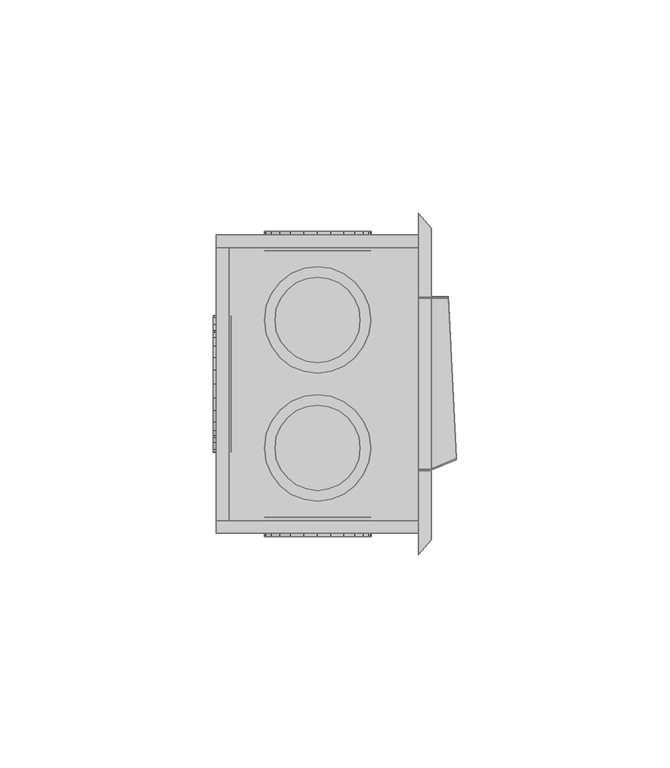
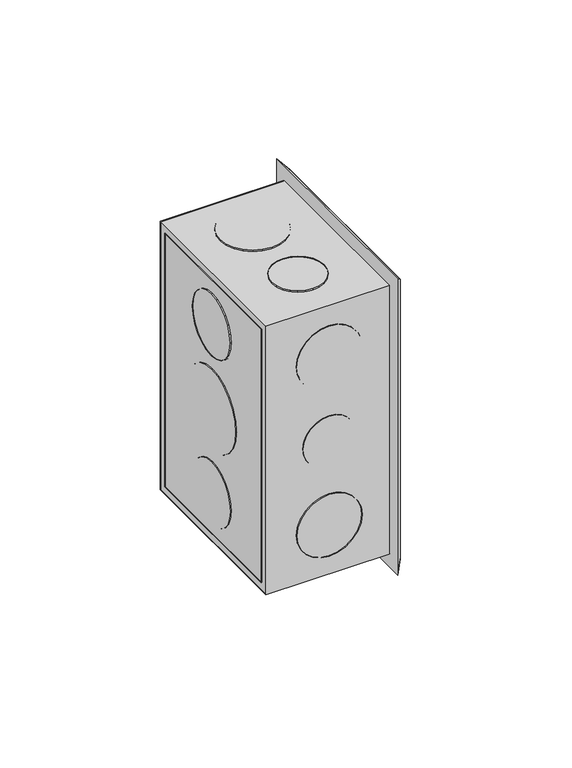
"""IFC4 building model written with IfcOpenShell, lengths in millimetres: proxy geometry,  210135 :  210135."""

from ifc_helpers import new_model, si_unit, origin, place, context, project, spatial, triangles, source, transform, mapped, element, save


def generic_models_2f997e9f(model_context):
    return source(origin(), model_context, "Body", "Tessellation", [
        triangles([(6623.7997604, 23255.8990906, 1254.3000378), (6623.7997604, 23252.8992737, 1148.7000154), (6623.7997604, 23255.8990906, 1145.6999805), (6623.7997604, 23252.8992737, 1251.2999302), (6623.7997604, 23185.9010376, 1254.3000378), (6623.7997604, 23188.9008545, 1251.2999302), (6623.7997604, 23185.9010376, 1145.6999805), (6623.7997604, 23188.9008545, 1148.7000154), (6576.2997528, 23252.8992737, 1251.2999302), (6576.2997528, 23252.8992737, 1148.7000154), (6576.2997528, 23185.9010376, 1254.3000378), (6576.2997528, 23185.9010376, 1145.6999805), (6576.2997528, 23188.9008545, 1251.2999302), (6576.2997528, 23255.8990906, 1145.6999805), (6576.2997528, 23188.9008545, 1148.7000154), (6576.2997528, 23255.8990906, 1254.3000378), (6579.3001511, 23252.8992737, 1251.2999302), (6579.3001511, 23188.9008545, 1148.7000154), (6579.3001511, 23252.8992737, 1148.7000154), (6579.3001511, 23188.9008545, 1251.2999302), (6575.5997955, 23228.9007385, 1186.0999855), (6575.5997955, 23234.8003784, 1191.9999887), (6575.5997955, 23232.2005371, 1188.6999722), (6575.5997955, 23225.1009705, 1184.5000105), (6575.5997955, 23236.4002808, 1195.8999687), (6575.5997955, 23220.8989014, 1183.9999683), (6575.5997955, 23236.9002502, 1200.0000092), (6575.5997955, 23216.7991516, 1184.5000105), (6575.5997955, 23236.4002808, 1204.0999769), (6575.5997955, 23212.8993896, 1186.0999855), (6575.5997955, 23234.8003784, 1208.0000296), (6575.5997955, 23209.5995911, 1188.6999722), (6575.5997955, 23232.2005371, 1211.2999735), (6575.5997955, 23207.0997437, 1191.9999887), (6575.5997955, 23228.9007385, 1213.9000328), (6575.5997955, 23205.4998413, 1195.8999687), (6575.5997955, 23225.1009705, 1215.5000078), (6575.5997955, 23204.8998779, 1200.0000092), (6575.5997955, 23220.8989014, 1215.9999773), (6575.5997955, 23205.4998413, 1204.0999769), (6575.5997955, 23216.7991516, 1215.5000078), (6575.5997955, 23207.0997437, 1208.0000296), (6575.5997955, 23212.8993896, 1213.9000328), (6575.5997955, 23209.5995911, 1211.2999735), (6579.8001205, 23225.1009705, 1215.5000078), (6579.8001205, 23220.8989014, 1215.9999773), (6579.8001205, 23228.9007385, 1213.9000328), (6579.8001205, 23232.2005371, 1211.2999735), (6579.8001205, 23234.8003784, 1208.0000296), (6579.8001205, 23236.4002808, 1204.0999769), (6579.8001205, 23236.9002502, 1200.0000092), (6579.8001205, 23236.4002808, 1195.8999687), (6579.8001205, 23234.8003784, 1191.9999887), (6579.8001205, 23232.2005371, 1188.6999722), (6579.8001205, 23228.9007385, 1186.0999855), (6579.8001205, 23225.1009705, 1184.5000105), (6579.8001205, 23220.8989014, 1183.9999683), (6579.8001205, 23216.7991516, 1184.5000105), (6579.8001205, 23212.8993896, 1186.0999855), (6579.8001205, 23209.5995911, 1188.6999722), (6579.8001205, 23207.0997437, 1191.9999887), (6579.8001205, 23205.4998413, 1195.8999687), (6579.8001205, 23204.8998779, 1200.0000092), (6579.8001205, 23205.4998413, 1204.0999769), (6579.8001205, 23207.0997437, 1208.0000296), (6579.8001205, 23209.5995911, 1211.2999735), (6579.8001205, 23212.8993896, 1213.9000328), (6579.8001205, 23216.7991516, 1215.5000078), (6579.8001205, 23231.8005615, 1227.8000565), (6579.8001205, 23227.2008423, 1223.2000465), (6579.8001205, 23229.8006836, 1225.2000698), (6579.8001205, 23233.0004883, 1230.8000187), (6579.8001205, 23224.2010254, 1221.8999805), (6579.8001205, 23233.4004639, 1233.9999687), (6579.8001205, 23220.8989014, 1221.500005), (6579.8001205, 23233.0004883, 1237.2000641), (6579.8001205, 23217.6990967, 1221.8999805), (6579.8001205, 23231.8005615, 1240.3000202), (6579.8001205, 23214.6992798, 1223.2000465), (6579.8001205, 23229.8006836, 1242.800013), (6579.8001205, 23212.0994385, 1225.2000698), (6579.8001205, 23210.0995605, 1227.8000565), (6579.8001205, 23227.2008423, 1244.8000362), (6579.8001205, 23224.2010254, 1246.0999569), (6579.8001205, 23208.8996338, 1230.8000187), (6579.8001205, 23220.8989014, 1246.4999325), (6579.8001205, 23208.3996643, 1233.9999687), (6579.8001205, 23217.6990967, 1246.0999569), (6579.8001205, 23208.8996338, 1237.2000641), (6579.8001205, 23210.0995605, 1240.3000202), (6579.8001205, 23214.6992798, 1244.8000362), (6579.8001205, 23212.0994385, 1242.800013), (6575.5997955, 23208.8996338, 1230.8000187), (6575.5997955, 23210.0995605, 1227.8000565), (6575.5997955, 23212.0994385, 1225.2000698), (6575.5997955, 23214.6992798, 1223.2000465), (6575.5997955, 23217.6990967, 1221.8999805), (6575.5997955, 23220.8989014, 1221.500005), (6575.5997955, 23224.2010254, 1221.8999805), (6575.5997955, 23227.2008423, 1223.2000465), (6575.5997955, 23229.8006836, 1225.2000698), (6575.5997955, 23231.8005615, 1227.8000565), (6575.5997955, 23233.0004883, 1230.8000187), (6575.5997955, 23233.4004639, 1233.9999687), (6575.5997955, 23233.0004883, 1237.2000641), (6575.5997955, 23231.8005615, 1240.3000202), (6575.5997955, 23229.8006836, 1242.800013), (6575.5997955, 23227.2008423, 1244.8000362), (6575.5997955, 23224.2010254, 1246.0999569), (6575.5997955, 23220.8989014, 1246.4999325), (6575.5997955, 23217.6990967, 1246.0999569), (6575.5997955, 23214.6992798, 1244.8000362), (6575.5997955, 23212.0994385, 1242.800013), (6575.5997955, 23210.0995605, 1240.3000202), (6575.5997955, 23208.8996338, 1237.2000641), (6575.5997955, 23208.3996643, 1233.9999687), (6575.5997955, 23227.2008423, 1155.1999821), (6575.5997955, 23231.8005615, 1159.6999981), (6575.5997955, 23229.8006836, 1157.2000053), (6575.5997955, 23224.2010254, 1153.8999887), (6575.5997955, 23233.0004883, 1162.8000269), (6575.5997955, 23220.8989014, 1153.5000132), (6575.5997955, 23233.4004639, 1165.9999769), (6575.5997955, 23217.6990967, 1153.8999887), (6575.5997955, 23233.0004883, 1169.1999996), (6575.5997955, 23214.6992798, 1155.1999821), (6575.5997955, 23231.8005615, 1172.2000345), (6575.5997955, 23212.0994385, 1157.2000053), (6575.5997955, 23229.8006836, 1174.8000212), (6575.5997955, 23210.0995605, 1159.6999981), (6575.5997955, 23227.2008423, 1176.7999718), (6575.5997955, 23208.8996338, 1162.8000269), (6575.5997955, 23224.2010254, 1178.0999651), (6575.5997955, 23220.8989014, 1178.5000134), (6575.5997955, 23208.3996643, 1165.9999769), (6575.5997955, 23208.8996338, 1169.1999996), (6575.5997955, 23217.6990967, 1178.0999651), (6575.5997955, 23210.0995605, 1172.2000345), (6575.5997955, 23214.6992798, 1176.7999718), (6575.5997955, 23212.0994385, 1174.8000212), (6579.8001205, 23224.2010254, 1178.0999651), (6579.8001205, 23220.8989014, 1178.5000134), (6579.8001205, 23227.2008423, 1176.7999718), (6579.8001205, 23229.8006836, 1174.8000212), (6579.8001205, 23231.8005615, 1172.2000345), (6579.8001205, 23233.0004883, 1169.1999996), (6579.8001205, 23233.4004639, 1165.9999769), (6579.8001205, 23233.0004883, 1162.8000269), (6579.8001205, 23231.8005615, 1159.6999981), (6579.8001205, 23229.8006836, 1157.2000053), (6579.8001205, 23227.2008423, 1155.1999821), (6579.8001205, 23224.2010254, 1153.8999887), (6579.8001205, 23220.8989014, 1153.5000132), (6579.8001205, 23217.6990967, 1153.8999887), (6579.8001205, 23214.6992798, 1155.1999821), (6579.8001205, 23212.0994385, 1157.2000053), (6579.8001205, 23210.0995605, 1159.6999981), (6579.8001205, 23208.8996338, 1162.8000269), (6579.8001205, 23208.3996643, 1165.9999769), (6579.8001205, 23208.8996338, 1169.1999996), (6579.8001205, 23210.0995605, 1172.2000345), (6579.8001205, 23212.0994385, 1174.8000212), (6579.8001205, 23214.6992798, 1176.7999718), (6579.8001205, 23217.6990967, 1178.0999651), (6591.3999939, 23256.6990417, 1195.0000237), (6595.0997681, 23256.6990417, 1191.3000315), (6592.9998962, 23256.6990417, 1192.9000065), (6590.4000549, 23256.6990417, 1197.4000225), (6597.5002029, 23256.6990417, 1190.3000198), (6590.1000732, 23256.6990417, 1200.0000092), (6600.1000443, 23256.6990417, 1189.9999655), (6590.4000549, 23256.6990417, 1202.5999958), (6602.6998856, 23256.6990417, 1190.3000198), (6591.3999939, 23256.6990417, 1204.9999947), (6605.0997391, 23256.6990417, 1191.3000315), (6592.9998962, 23256.6990417, 1207.1000118), (6607.2001923, 23256.6990417, 1192.9000065), (6595.0997681, 23256.6990417, 1208.6999868), (6608.8000946, 23256.6990417, 1195.0000237), (6597.5002029, 23256.6990417, 1209.6999985), (6609.8000336, 23256.6990417, 1197.4000225), (6610.1000153, 23256.6990417, 1200.0000092), (6600.1000443, 23256.6990417, 1209.9999802), (6602.6998856, 23256.6990417, 1209.6999985), (6609.8000336, 23256.6990417, 1202.5999958), (6605.0997391, 23256.6990417, 1208.6999868), (6608.8000946, 23256.6990417, 1204.9999947), (6607.2001923, 23256.6990417, 1207.1000118), (6597.5002029, 23252.0993225, 1209.6999985), (6600.1000443, 23252.0993225, 1209.9999802), (6602.6998856, 23252.0993225, 1209.6999985), (6605.0997391, 23252.0993225, 1208.6999868), (6607.2001923, 23252.0993225, 1207.1000118), (6608.8000946, 23252.0993225, 1204.9999947), (6609.8000336, 23252.0993225, 1202.5999958), (6610.1000153, 23252.0993225, 1200.0000092), (6609.8000336, 23252.0993225, 1197.4000225), (6608.8000946, 23252.0993225, 1195.0000237), (6607.2001923, 23252.0993225, 1192.9000065), (6605.0997391, 23252.0993225, 1191.3000315), (6602.6998856, 23252.0993225, 1190.3000198), (6600.1000443, 23252.0993225, 1189.9999655), (6597.5002029, 23252.0993225, 1190.3000198), (6595.0997681, 23252.0993225, 1191.3000315), (6592.9998962, 23252.0993225, 1192.9000065), (6591.3999939, 23252.0993225, 1195.0000237), (6590.4000549, 23252.0993225, 1197.4000225), (6590.1000732, 23252.0993225, 1200.0000092), (6590.4000549, 23252.0993225, 1202.5999958), (6591.3999939, 23252.0993225, 1204.9999947), (6592.9998962, 23252.0993225, 1207.1000118), (6595.0997681, 23252.0993225, 1208.6999868), (6593.7998474, 23252.0993225, 1223.2000465), (6589.3001221, 23252.0993225, 1227.8000565), (6591.3, 23252.0993225, 1225.2000698), (6596.9002396, 23252.0993225, 1221.8999805), (6588.0002014, 23252.0993225, 1230.8000187), (6587.6002258, 23252.0993225, 1233.9999687), (6600.1000443, 23252.0993225, 1221.500005), (6603.2998489, 23252.0993225, 1221.8999805), (6588.0002014, 23252.0993225, 1237.2000641), (6589.3001221, 23252.0993225, 1240.3000202), (6606.3002472, 23252.0993225, 1223.2000465), (6608.9000885, 23252.0993225, 1225.2000698), (6591.3, 23252.0993225, 1242.800013), (6610.8999664, 23252.0993225, 1227.8000565), (6593.7998474, 23252.0993225, 1244.8000362), (6612.1998871, 23252.0993225, 1230.8000187), (6596.9002396, 23252.0993225, 1246.0999569), (6612.5998627, 23252.0993225, 1233.9999687), (6600.1000443, 23252.0993225, 1246.4999325), (6612.1998871, 23252.0993225, 1237.2000641), (6603.2998489, 23252.0993225, 1246.0999569), (6610.8999664, 23252.0993225, 1240.3000202), (6606.3002472, 23252.0993225, 1244.8000362), (6608.9000885, 23252.0993225, 1242.800013), (6600.1000443, 23256.6990417, 1221.500005), (6596.9002396, 23256.6990417, 1221.8999805), (6603.2998489, 23256.6990417, 1221.8999805), (6606.3002472, 23256.6990417, 1223.2000465), (6608.9000885, 23256.6990417, 1225.2000698), (6610.8999664, 23256.6990417, 1227.8000565), (6612.1998871, 23256.6990417, 1230.8000187), (6612.5998627, 23256.6990417, 1233.9999687), (6612.1998871, 23256.6990417, 1237.2000641), (6610.8999664, 23256.6990417, 1240.3000202), (6608.9000885, 23256.6990417, 1242.800013), (6606.3002472, 23256.6990417, 1244.8000362), (6603.2998489, 23256.6990417, 1246.0999569), (6600.1000443, 23256.6990417, 1246.4999325), (6596.9002396, 23256.6990417, 1246.0999569), (6593.7998474, 23256.6990417, 1244.8000362), (6591.3, 23256.6990417, 1242.800013), (6589.3001221, 23256.6990417, 1240.3000202), (6588.0002014, 23256.6990417, 1237.2000641), (6587.6002258, 23256.6990417, 1233.9999687), (6588.0002014, 23256.6990417, 1230.8000187), (6589.3001221, 23256.6990417, 1227.8000565), (6591.3, 23256.6990417, 1225.2000698), (6593.7998474, 23256.6990417, 1223.2000465), (6589.3001221, 23256.6990417, 1159.6999981), (6593.7998474, 23256.6990417, 1155.1999821), (6591.3, 23256.6990417, 1157.2000053), (6588.0002014, 23256.6990417, 1162.8000269), (6596.9002396, 23256.6990417, 1153.8999887), (6587.6002258, 23256.6990417, 1165.9999769), (6600.1000443, 23256.6990417, 1153.5000132), (6588.0002014, 23256.6990417, 1169.1999996), (6603.2998489, 23256.6990417, 1153.8999887), (6589.3001221, 23256.6990417, 1172.2000345), (6606.3002472, 23256.6990417, 1155.1999821), (6591.3, 23256.6990417, 1174.8000212), (6608.9000885, 23256.6990417, 1157.2000053), (6593.7998474, 23256.6990417, 1176.7999718), (6610.8999664, 23256.6990417, 1159.6999981), (6596.9002396, 23256.6990417, 1178.0999651), (6612.1998871, 23256.6990417, 1162.8000269), (6600.1000443, 23256.6990417, 1178.5000134), (6612.5998627, 23256.6990417, 1165.9999769), (6603.2998489, 23256.6990417, 1178.0999651), (6612.1998871, 23256.6990417, 1169.1999996), (6606.3002472, 23256.6990417, 1176.7999718), (6610.8999664, 23256.6990417, 1172.2000345), (6608.9000885, 23256.6990417, 1174.8000212), (6596.9002396, 23252.0993225, 1178.0999651), (6600.1000443, 23252.0993225, 1178.5000134), (6603.2998489, 23252.0993225, 1178.0999651), (6606.3002472, 23252.0993225, 1176.7999718), (6608.9000885, 23252.0993225, 1174.8000212), (6610.8999664, 23252.0993225, 1172.2000345), (6612.1998871, 23252.0993225, 1169.1999996), (6612.5998627, 23252.0993225, 1165.9999769), (6612.1998871, 23252.0993225, 1162.8000269), (6610.8999664, 23252.0993225, 1159.6999981), (6608.9000885, 23252.0993225, 1157.2000053), (6606.3002472, 23252.0993225, 1155.1999821), (6603.2998489, 23252.0993225, 1153.8999887), (6600.1000443, 23252.0993225, 1153.5000132), (6596.9002396, 23252.0993225, 1153.8999887), (6593.7998474, 23252.0993225, 1155.1999821), (6591.3, 23252.0993225, 1157.2000053), (6589.3001221, 23252.0993225, 1159.6999981), (6588.0002014, 23252.0993225, 1162.8000269), (6587.6002258, 23252.0993225, 1165.9999769), (6588.0002014, 23252.0993225, 1169.1999996), (6589.3001221, 23252.0993225, 1172.2000345), (6591.3, 23252.0993225, 1174.8000212), (6593.7998474, 23252.0993225, 1176.7999718), (6595.0997681, 23185.1010864, 1191.3000315), (6591.3999939, 23185.1010864, 1195.0000237), (6592.9998962, 23185.1010864, 1192.9000065), (6590.4000549, 23185.1010864, 1197.4000225), (6597.5002029, 23185.1010864, 1190.3000198), (6590.1000732, 23185.1010864, 1200.0000092), (6600.1000443, 23185.1010864, 1189.9999655), (6602.6998856, 23185.1010864, 1190.3000198), (6590.4000549, 23185.1010864, 1202.5999958), (6591.3999939, 23185.1010864, 1204.9999947), (6605.0997391, 23185.1010864, 1191.3000315), (6592.9998962, 23185.1010864, 1207.1000118), (6607.2001923, 23185.1010864, 1192.9000065), (6608.8000946, 23185.1010864, 1195.0000237), (6595.0997681, 23185.1010864, 1208.6999868), (6609.8000336, 23185.1010864, 1197.4000225), (6597.5002029, 23185.1010864, 1209.6999985), (6610.1000153, 23185.1010864, 1200.0000092), (6600.1000443, 23185.1010864, 1209.9999802), (6609.8000336, 23185.1010864, 1202.5999958), (6602.6998856, 23185.1010864, 1209.6999985), (6605.0997391, 23185.1010864, 1208.6999868), (6608.8000946, 23185.1010864, 1204.9999947), (6607.2001923, 23185.1010864, 1207.1000118), (6597.5002029, 23189.7008057, 1190.3000198), (6595.0997681, 23189.7008057, 1191.3000315), (6600.1000443, 23189.7008057, 1189.9999655), (6602.6998856, 23189.7008057, 1190.3000198), (6605.0997391, 23189.7008057, 1191.3000315), (6607.2001923, 23189.7008057, 1192.9000065), (6608.8000946, 23189.7008057, 1195.0000237), (6609.8000336, 23189.7008057, 1197.4000225), (6610.1000153, 23189.7008057, 1200.0000092), (6609.8000336, 23189.7008057, 1202.5999958), (6608.8000946, 23189.7008057, 1204.9999947), (6607.2001923, 23189.7008057, 1207.1000118), (6605.0997391, 23189.7008057, 1208.6999868), (6602.6998856, 23189.7008057, 1209.6999985), (6600.1000443, 23189.7008057, 1209.9999802), (6597.5002029, 23189.7008057, 1209.6999985), (6595.0997681, 23189.7008057, 1208.6999868), (6592.9998962, 23189.7008057, 1207.1000118), (6591.3999939, 23189.7008057, 1204.9999947), (6590.4000549, 23189.7008057, 1202.5999958), (6590.1000732, 23189.7008057, 1200.0000092), (6590.4000549, 23189.7008057, 1197.4000225), (6591.3999939, 23189.7008057, 1195.0000237), (6592.9998962, 23189.7008057, 1192.9000065), (6589.3001221, 23189.7008057, 1159.6999981), (6593.7998474, 23189.7008057, 1155.1999821), (6591.3, 23189.7008057, 1157.2000053), (6588.0002014, 23189.7008057, 1162.8000269), (6596.9002396, 23189.7008057, 1153.8999887), (6587.6002258, 23189.7008057, 1165.9999769), (6600.1000443, 23189.7008057, 1153.5000132), (6588.0002014, 23189.7008057, 1169.1999996), (6603.2998489, 23189.7008057, 1153.8999887), (6589.3001221, 23189.7008057, 1172.2000345), (6606.3002472, 23189.7008057, 1155.1999821), (6591.3, 23189.7008057, 1174.8000212), (6608.9000885, 23189.7008057, 1157.2000053), (6593.7998474, 23189.7008057, 1176.7999718), (6610.8999664, 23189.7008057, 1159.6999981), (6596.9002396, 23189.7008057, 1178.0999651), (6612.1998871, 23189.7008057, 1162.8000269), (6600.1000443, 23189.7008057, 1178.5000134), (6612.5998627, 23189.7008057, 1165.9999769), (6603.2998489, 23189.7008057, 1178.0999651), (6612.1998871, 23189.7008057, 1169.1999996), (6606.3002472, 23189.7008057, 1176.7999718), (6610.8999664, 23189.7008057, 1172.2000345), (6608.9000885, 23189.7008057, 1174.8000212), (6596.9002396, 23185.1010864, 1178.0999651), (6600.1000443, 23185.1010864, 1178.5000134), (6603.2998489, 23185.1010864, 1178.0999651), (6606.3002472, 23185.1010864, 1176.7999718), (6608.9000885, 23185.1010864, 1174.8000212), (6610.8999664, 23185.1010864, 1172.2000345), (6612.1998871, 23185.1010864, 1169.1999996), (6612.5998627, 23185.1010864, 1165.9999769), (6612.1998871, 23185.1010864, 1162.8000269), (6610.8999664, 23185.1010864, 1159.6999981), (6608.9000885, 23185.1010864, 1157.2000053), (6606.3002472, 23185.1010864, 1155.1999821), (6603.2998489, 23185.1010864, 1153.8999887), (6600.1000443, 23185.1010864, 1153.5000132), (6596.9002396, 23185.1010864, 1153.8999887), (6593.7998474, 23185.1010864, 1155.1999821), (6591.3, 23185.1010864, 1157.2000053), (6589.3001221, 23185.1010864, 1159.6999981), (6588.0002014, 23185.1010864, 1162.8000269), (6587.6002258, 23185.1010864, 1165.9999769), (6588.0002014, 23185.1010864, 1169.1999996), (6589.3001221, 23185.1010864, 1172.2000345), (6591.3, 23185.1010864, 1174.8000212), (6593.7998474, 23185.1010864, 1176.7999718), (6593.7998474, 23185.1010864, 1223.2000465), (6589.3001221, 23185.1010864, 1227.8000565), (6591.3, 23185.1010864, 1225.2000698), (6596.9002396, 23185.1010864, 1221.8999805), (6588.0002014, 23185.1010864, 1230.8000187), (6587.6002258, 23185.1010864, 1233.9999687), (6600.1000443, 23185.1010864, 1221.500005), (6603.2998489, 23185.1010864, 1221.8999805), (6588.0002014, 23185.1010864, 1237.2000641), (6589.3001221, 23185.1010864, 1240.3000202), (6606.3002472, 23185.1010864, 1223.2000465), (6608.9000885, 23185.1010864, 1225.2000698), (6591.3, 23185.1010864, 1242.800013), (6610.8999664, 23185.1010864, 1227.8000565), (6593.7998474, 23185.1010864, 1244.8000362), (6612.1998871, 23185.1010864, 1230.8000187), (6596.9002396, 23185.1010864, 1246.0999569), (6612.5998627, 23185.1010864, 1233.9999687), (6600.1000443, 23185.1010864, 1246.4999325), (6612.1998871, 23185.1010864, 1237.2000641), (6603.2998489, 23185.1010864, 1246.0999569), (6610.8999664, 23185.1010864, 1240.3000202), (6606.3002472, 23185.1010864, 1244.8000362), (6608.9000885, 23185.1010864, 1242.800013), (6600.1000443, 23189.7008057, 1221.500005), (6596.9002396, 23189.7008057, 1221.8999805), (6603.2998489, 23189.7008057, 1221.8999805), (6606.3002472, 23189.7008057, 1223.2000465), (6608.9000885, 23189.7008057, 1225.2000698), (6610.8999664, 23189.7008057, 1227.8000565), (6612.1998871, 23189.7008057, 1230.8000187), (6612.5998627, 23189.7008057, 1233.9999687), (6612.1998871, 23189.7008057, 1237.2000641), (6610.8999664, 23189.7008057, 1240.3000202), (6608.9000885, 23189.7008057, 1242.800013), (6606.3002472, 23189.7008057, 1244.8000362), (6603.2998489, 23189.7008057, 1246.0999569), (6600.1000443, 23189.7008057, 1246.4999325), (6596.9002396, 23189.7008057, 1246.0999569), (6593.7998474, 23189.7008057, 1244.8000362), (6591.3, 23189.7008057, 1242.800013), (6589.3001221, 23189.7008057, 1240.3000202), (6588.0002014, 23189.7008057, 1237.2000641), (6587.6002258, 23189.7008057, 1233.9999687), (6588.0002014, 23189.7008057, 1230.8000187), (6589.3001221, 23189.7008057, 1227.8000565), (6591.3, 23189.7008057, 1225.2000698), (6593.7998474, 23189.7008057, 1223.2000465), (6589.3001221, 23242.1999268, 1255.1999828), (6593.7998474, 23246.799646, 1255.1999828), (6591.3, 23244.7997681, 1255.1999828), (6596.9002396, 23247.9995728, 1255.1999828), (6588.0002014, 23239.2001099, 1255.1999828), (6587.6002258, 23235.9003113, 1255.1999828), (6600.1000443, 23248.3995483, 1255.1999828), (6603.2998489, 23247.9995728, 1255.1999828), (6588.0002014, 23232.7005066, 1255.1999828), (6589.3001221, 23229.7006897, 1255.1999828), (6606.3002472, 23246.799646, 1255.1999828), (6608.9000885, 23244.7997681, 1255.1999828), (6591.3, 23227.1008484, 1255.1999828), (6593.7998474, 23225.1009705, 1255.1999828), (6610.8999664, 23242.1999268, 1255.1999828), (6612.1998871, 23239.2001099, 1255.1999828), (6596.9002396, 23223.9010437, 1255.1999828), (6612.5998627, 23235.9003113, 1255.1999828), (6600.1000443, 23223.4010742, 1255.1999828), (6612.1998871, 23232.7005066, 1255.1999828), (6603.2998489, 23223.9010437, 1255.1999828), (6606.3002472, 23225.1009705, 1255.1999828), (6610.8999664, 23229.7006897, 1255.1999828), (6608.9000885, 23227.1008484, 1255.1999828), (6612.5998627, 23235.9003113, 1250.9999485), (6612.1998871, 23239.2001099, 1250.9999485), (6610.8999664, 23242.1999268, 1250.9999485), (6608.9000885, 23244.7997681, 1250.9999485), (6606.3002472, 23246.799646, 1250.9999485), (6603.2998489, 23247.9995728, 1250.9999485), (6600.1000443, 23248.3995483, 1250.9999485), (6596.9002396, 23247.9995728, 1250.9999485), (6593.7998474, 23246.799646, 1250.9999485), (6591.3, 23244.7997681, 1250.9999485), (6589.3001221, 23242.1999268, 1250.9999485), (6588.0002014, 23239.2001099, 1250.9999485), (6587.6002258, 23235.9003113, 1250.9999485), (6588.0002014, 23232.7005066, 1250.9999485), (6589.3001221, 23229.7006897, 1250.9999485), (6591.3, 23227.1008484, 1250.9999485), (6593.7998474, 23225.1009705, 1250.9999485), (6596.9002396, 23223.9010437, 1250.9999485), (6600.1000443, 23223.4010742, 1250.9999485), (6603.2998489, 23223.9010437, 1250.9999485), (6606.3002472, 23225.1009705, 1250.9999485), (6608.9000885, 23227.1008484, 1250.9999485), (6610.8999664, 23229.7006897, 1250.9999485), (6612.1998871, 23232.7005066, 1250.9999485), (6595.0997681, 23214.5992859, 1250.9999485), (6591.3999939, 23210.8995117, 1250.9999485), (6592.9998962, 23212.9993835, 1250.9999485), (6590.4000549, 23208.4996582, 1250.9999485), (6597.5002029, 23215.5992249, 1250.9999485), (6590.1000732, 23205.8998169, 1250.9999485), (6600.1000443, 23215.8992065, 1250.9999485), (6602.6998856, 23215.5992249, 1250.9999485), (6590.4000549, 23203.2999756, 1250.9999485), (6591.3999939, 23200.9001221, 1250.9999485), (6605.0997391, 23214.5992859, 1250.9999485), (6592.9998962, 23198.9002441, 1250.9999485), (6607.2001923, 23212.9993835, 1250.9999485), (6608.8000946, 23210.8995117, 1250.9999485), (6595.0997681, 23197.3003418, 1250.9999485), (6597.5002029, 23196.3004028, 1250.9999485), (6609.8000336, 23208.4996582, 1250.9999485), (6610.1000153, 23205.8998169, 1250.9999485), (6600.1000443, 23195.9004272, 1250.9999485), (6609.8000336, 23203.2999756, 1250.9999485), (6602.6998856, 23196.3004028, 1250.9999485), (6608.8000946, 23200.9001221, 1250.9999485), (6605.0997391, 23197.3003418, 1250.9999485), (6607.2001923, 23198.9002441, 1250.9999485), (6590.4000549, 23203.2999756, 1255.1999828), (6591.3999939, 23200.9001221, 1255.1999828), (6590.1000732, 23205.8998169, 1255.1999828), (6590.4000549, 23208.4996582, 1255.1999828), (6591.3999939, 23210.8995117, 1255.1999828), (6592.9998962, 23212.9993835, 1255.1999828), (6595.0997681, 23214.5992859, 1255.1999828), (6597.5002029, 23215.5992249, 1255.1999828), (6600.1000443, 23215.8992065, 1255.1999828), (6602.6998856, 23215.5992249, 1255.1999828), (6605.0997391, 23214.5992859, 1255.1999828), (6607.2001923, 23212.9993835, 1255.1999828), (6608.8000946, 23210.8995117, 1255.1999828), (6609.8000336, 23208.4996582, 1255.1999828), (6610.1000153, 23205.8998169, 1255.1999828), (6609.8000336, 23203.2999756, 1255.1999828), (6608.8000946, 23200.9001221, 1255.1999828), (6607.2001923, 23198.9002441, 1255.1999828), (6605.0997391, 23197.3003418, 1255.1999828), (6602.6998856, 23196.3004028, 1255.1999828), (6600.1000443, 23195.9004272, 1255.1999828), (6597.5002029, 23196.3004028, 1255.1999828), (6595.0997681, 23197.3003418, 1255.1999828), (6592.9998962, 23198.9002441, 1255.1999828), (6595.0997681, 23244.5997803, 1144.8000355), (6591.3999939, 23240.9000061, 1144.8000355), (6592.9998962, 23242.9998779, 1144.8000355), (6590.4000549, 23238.5001526, 1144.8000355), (6597.5002029, 23245.5997192, 1144.8000355), (6590.1000732, 23235.9003113, 1144.8000355), (6600.1000443, 23245.8997009, 1144.8000355), (6602.6998856, 23245.5997192, 1144.8000355), (6590.4000549, 23233.30047, 1144.8000355), (6591.3999939, 23230.9006165, 1144.8000355), (6605.0997391, 23244.5997803, 1144.8000355), (6592.9998962, 23228.9007385, 1144.8000355), (6607.2001923, 23242.9998779, 1144.8000355), (6608.8000946, 23240.9000061, 1144.8000355), (6595.0997681, 23227.3008362, 1144.8000355), (6597.5002029, 23226.3008972, 1144.8000355), (6609.8000336, 23238.5001526, 1144.8000355), (6610.1000153, 23235.9003113, 1144.8000355), (6600.1000443, 23225.9009216, 1144.8000355), (6609.8000336, 23233.30047, 1144.8000355), (6602.6998856, 23226.3008972, 1144.8000355), (6608.8000946, 23230.9006165, 1144.8000355), (6605.0997391, 23227.3008362, 1144.8000355), (6607.2001923, 23228.9007385, 1144.8000355), (6590.4000549, 23238.5001526, 1149.099991), (6590.1000732, 23235.9003113, 1149.099991), (6591.3999939, 23240.9000061, 1149.099991), (6592.9998962, 23242.9998779, 1149.099991), (6595.0997681, 23244.5997803, 1149.099991), (6597.5002029, 23245.5997192, 1149.099991), (6600.1000443, 23245.8997009, 1149.099991), (6602.6998856, 23245.5997192, 1149.099991), (6605.0997391, 23244.5997803, 1149.099991), (6607.2001923, 23242.9998779, 1149.099991), (6608.8000946, 23240.9000061, 1149.099991), (6609.8000336, 23238.5001526, 1149.099991), (6610.1000153, 23235.9003113, 1149.099991), (6609.8000336, 23233.30047, 1149.099991), (6608.8000946, 23230.9006165, 1149.099991), (6607.2001923, 23228.9007385, 1149.099991), (6605.0997391, 23227.3008362, 1149.099991), (6602.6998856, 23226.3008972, 1149.099991), (6600.1000443, 23225.9009216, 1149.099991), (6597.5002029, 23226.3008972, 1149.099991), (6595.0997681, 23227.3008362, 1149.099991), (6592.9998962, 23228.9007385, 1149.099991), (6591.3999939, 23230.9006165, 1149.099991), (6590.4000549, 23233.30047, 1149.099991), (6593.7998474, 23216.7991516, 1144.8000355), (6589.3001221, 23212.1994324, 1144.8000355), (6591.3, 23214.7992737, 1144.8000355), (6596.9002396, 23217.9990784, 1144.8000355), (6588.0002014, 23209.1996155, 1144.8000355), (6587.6002258, 23205.8998169, 1144.8000355), (6600.1000443, 23218.399054, 1144.8000355), (6603.2998489, 23217.9990784, 1144.8000355), (6588.0002014, 23202.7000122, 1144.8000355), (6589.3001221, 23199.7001953, 1144.8000355), (6606.3002472, 23216.7991516, 1144.8000355), (6608.9000885, 23214.7992737, 1144.8000355), (6591.3, 23197.100354, 1144.8000355), (6593.7998474, 23195.1004761, 1144.8000355), (6610.8999664, 23212.1994324, 1144.8000355), (6612.1998871, 23209.1996155, 1144.8000355), (6596.9002396, 23193.9005493, 1144.8000355), (6612.5998627, 23205.8998169, 1144.8000355), (6600.1000443, 23193.4005798, 1144.8000355), (6612.1998871, 23202.7000122, 1144.8000355), (6603.2998489, 23193.9005493, 1144.8000355), (6606.3002472, 23195.1004761, 1144.8000355), (6610.8999664, 23199.7001953, 1144.8000355), (6608.9000885, 23197.100354, 1144.8000355), (6588.0002014, 23202.7000122, 1149.099991), (6589.3001221, 23199.7001953, 1149.099991), (6587.6002258, 23205.8998169, 1149.099991), (6588.0002014, 23209.1996155, 1149.099991), (6589.3001221, 23212.1994324, 1149.099991), (6591.3, 23214.7992737, 1149.099991), (6593.7998474, 23216.7991516, 1149.099991), (6596.9002396, 23217.9990784, 1149.099991), (6600.1000443, 23218.399054, 1149.099991), (6603.2998489, 23217.9990784, 1149.099991), (6606.3002472, 23216.7991516, 1149.099991), (6608.9000885, 23214.7992737, 1149.099991), (6610.8999664, 23212.1994324, 1149.099991), (6612.1998871, 23209.1996155, 1149.099991), (6612.5998627, 23205.8998169, 1149.099991), (6612.1998871, 23202.7000122, 1149.099991), (6610.8999664, 23199.7001953, 1149.099991), (6608.9000885, 23197.100354, 1149.099991), (6606.3002472, 23195.1004761, 1149.099991), (6603.2998489, 23193.9005493, 1149.099991), (6600.1000443, 23193.4005798, 1149.099991), (6596.9002396, 23193.9005493, 1149.099991), (6593.7998474, 23195.1004761, 1149.099991), (6591.3, 23197.100354, 1149.099991), (6623.7997604, 23180.8990173, 1139.9999651), (6623.7997604, 23241.0999939, 1164.5999897), (6623.7997604, 23260.9011108, 1139.9999651), (6623.7997604, 23200.7001343, 1164.5999897), (6623.7997604, 23180.8990173, 1259.9999805), (6623.7997604, 23200.7001343, 1188.0000149), (6623.7997604, 23200.7001343, 1211.3999674), (6623.7997604, 23200.7001343, 1234.8000652), (6623.7997604, 23260.9011108, 1259.9999805), (6623.7997604, 23241.0999939, 1188.0000149), (6623.7997604, 23241.0999939, 1211.3999674), (6623.7997604, 23241.0999939, 1234.8000652), (6626.8001587, 23241.0999939, 1188.0000149), (6626.8001587, 23200.7001343, 1188.0000149), (6626.8001587, 23241.0999939, 1234.8000652), (6626.8001587, 23200.7001343, 1234.8000652), (6626.8001587, 23200.7001343, 1164.5999897), (6626.8001587, 23200.7001343, 1211.3999674), (6626.8001587, 23241.0999939, 1164.5999897), (6626.8001587, 23241.0999939, 1211.3999674), (6626.8001587, 23257.398999, 1143.4999695), (6626.8001587, 23257.398999, 1256.5000488), (6626.8001587, 23184.4011292, 1143.4999695), (6626.8001587, 23184.4011292, 1256.5000488), (6630.7999146, 23241.0, 1211.2999735), (6623.7997604, 23200.6001404, 1211.2999735), (6623.7997604, 23241.0, 1211.2999735), (6632.6997986, 23203.1999817, 1211.2999735), (6626.3001892, 23200.6001404, 1211.2999735), (6623.7997604, 23241.0, 1234.7000713), (6623.7997604, 23200.6001404, 1234.7000713), (6630.7999146, 23241.0, 1234.7000713), (6632.6997986, 23203.1999817, 1234.7000713), (6626.3001892, 23200.6001404, 1234.7000713), (6630.7999146, 23241.2999817, 1164.6999836), (6623.7997604, 23200.9001221, 1164.6999836), (6623.7997604, 23241.2999817, 1164.6999836), (6632.6997986, 23203.4999634, 1164.6999836), (6626.3001892, 23200.9001221, 1164.6999836), (6623.7997604, 23241.2999817, 1188.1000088), (6623.7997604, 23200.9001221, 1188.1000088), (6630.7999146, 23241.2999817, 1188.1000088), (6632.6997986, 23203.4999634, 1188.1000088), (6626.3001892, 23200.9001221, 1188.1000088)], [[1, 2, 3], [2, 1, 4], [5, 4, 1], [4, 5, 6], [3, 2, 7], [7, 2, 8], [7, 8, 6], [7, 6, 5], [2, 9, 10], [9, 2, 4], [7, 11, 12], [11, 7, 5], [4, 13, 9], [13, 4, 6], [3, 12, 14], [12, 3, 7], [13, 8, 15], [8, 13, 6], [16, 3, 14], [3, 16, 1], [15, 2, 10], [2, 15, 8], [11, 1, 16], [1, 11, 5], [12, 10, 14], [10, 12, 15], [11, 15, 12], [15, 11, 13], [14, 10, 16], [16, 10, 9], [16, 9, 13], [16, 13, 11], [17, 18, 19], [18, 17, 20], [18, 13, 15], [13, 18, 20], [19, 15, 10], [15, 19, 18], [9, 19, 10], [19, 9, 17], [13, 17, 9], [17, 13, 20], [15, 9, 10], [9, 15, 13], [21, 22, 23], [22, 21, 24], [25, 22, 24], [25, 24, 26], [27, 25, 26], [27, 26, 28], [29, 27, 28], [29, 28, 30], [31, 29, 30], [31, 30, 32], [31, 32, 33], [33, 32, 34], [33, 34, 35], [35, 34, 36], [35, 36, 37], [37, 36, 38], [37, 38, 39], [39, 38, 40], [39, 40, 41], [41, 40, 42], [41, 42, 43], [43, 42, 44], [39, 45, 37], [45, 39, 46], [37, 47, 35], [47, 37, 45], [35, 48, 33], [48, 35, 47], [33, 49, 31], [49, 33, 48], [31, 50, 29], [50, 31, 49], [29, 51, 27], [51, 29, 50], [27, 52, 25], [52, 27, 51], [25, 53, 22], [53, 25, 52], [22, 54, 23], [54, 22, 53], [54, 21, 23], [21, 54, 55], [55, 24, 21], [24, 55, 56], [56, 26, 24], [26, 56, 57], [57, 28, 26], [28, 57, 58], [58, 30, 28], [30, 58, 59], [59, 32, 30], [32, 59, 60], [60, 34, 32], [34, 60, 61], [61, 36, 34], [36, 61, 62], [62, 38, 36], [38, 62, 63], [63, 40, 38], [40, 63, 64], [64, 42, 40], [42, 64, 65], [65, 44, 42], [44, 65, 66], [44, 67, 43], [67, 44, 66], [43, 68, 41], [68, 43, 67], [41, 46, 39], [46, 41, 68], [53, 55, 54], [55, 53, 52], [56, 55, 52], [56, 52, 51], [57, 56, 51], [57, 51, 50], [58, 57, 50], [58, 50, 49], [59, 58, 49], [59, 49, 48], [59, 48, 60], [60, 48, 47], [60, 47, 61], [61, 47, 45], [61, 45, 62], [62, 45, 46], [62, 46, 63], [63, 46, 68], [63, 68, 64], [64, 68, 67], [64, 67, 65], [65, 67, 66], [69, 70, 71], [70, 69, 72], [73, 70, 72], [73, 72, 74], [75, 73, 74], [75, 74, 76], [77, 75, 76], [77, 76, 78], [79, 77, 78], [79, 78, 80], [81, 79, 80], [81, 80, 82], [82, 80, 83], [82, 83, 84], [82, 84, 85], [85, 84, 86], [85, 86, 87], [87, 86, 88], [87, 88, 89], [89, 88, 90], [90, 88, 91], [90, 91, 92], [82, 93, 94], [93, 82, 85], [81, 94, 95], [94, 81, 82], [79, 95, 96], [95, 79, 81], [77, 96, 97], [96, 77, 79], [75, 97, 98], [97, 75, 77], [73, 98, 99], [98, 73, 75], [70, 99, 100], [99, 70, 73], [71, 100, 101], [100, 71, 70], [102, 71, 101], [71, 102, 69], [103, 69, 102], [69, 103, 72], [104, 72, 103], [72, 104, 74], [105, 74, 104], [74, 105, 76], [106, 76, 105], [76, 106, 78], [107, 78, 106], [78, 107, 80], [108, 80, 107], [80, 108, 83], [109, 83, 108], [83, 109, 84], [110, 84, 109], [84, 110, 86], [111, 86, 110], [86, 111, 88], [112, 88, 111], [88, 112, 91], [113, 91, 112], [91, 113, 92], [90, 113, 114], [113, 90, 92], [89, 114, 115], [114, 89, 90], [87, 115, 116], [115, 87, 89], [85, 116, 93], [116, 85, 87], [100, 102, 101], [102, 100, 99], [103, 102, 99], [103, 99, 98], [104, 103, 98], [104, 98, 97], [105, 104, 97], [106, 105, 97], [106, 97, 96], [106, 96, 95], [106, 95, 107], [107, 95, 94], [107, 94, 108], [108, 94, 93], [108, 93, 109], [109, 93, 116], [109, 116, 110], [110, 116, 115], [110, 115, 111], [111, 115, 114], [111, 114, 112], [112, 114, 113], [117, 118, 119], [118, 117, 120], [121, 118, 120], [121, 120, 122], [123, 121, 122], [123, 122, 124], [125, 123, 124], [125, 124, 126], [127, 125, 126], [127, 126, 128], [127, 128, 129], [129, 128, 130], [129, 130, 131], [131, 130, 132], [131, 132, 133], [133, 132, 134], [134, 132, 135], [134, 135, 136], [134, 136, 137], [137, 136, 138], [137, 138, 139], [139, 138, 140], [134, 141, 133], [141, 134, 142], [133, 143, 131], [143, 133, 141], [131, 144, 129], [144, 131, 143], [129, 145, 127], [145, 129, 144], [127, 146, 125], [146, 127, 145], [125, 147, 123], [147, 125, 146], [123, 148, 121], [148, 123, 147], [121, 149, 118], [149, 121, 148], [118, 150, 119], [150, 118, 149], [150, 117, 119], [117, 150, 151], [151, 120, 117], [120, 151, 152], [152, 122, 120], [122, 152, 153], [153, 124, 122], [124, 153, 154], [154, 126, 124], [126, 154, 155], [155, 128, 126], [128, 155, 156], [156, 130, 128], [130, 156, 157], [157, 132, 130], [132, 157, 158], [158, 135, 132], [135, 158, 159], [159, 136, 135], [136, 159, 160], [160, 138, 136], [138, 160, 161], [161, 140, 138], [140, 161, 162], [140, 163, 139], [163, 140, 162], [139, 164, 137], [164, 139, 163], [137, 142, 134], [142, 137, 164], [149, 151, 150], [151, 149, 148], [152, 151, 148], [153, 152, 148], [153, 148, 147], [153, 147, 146], [154, 153, 146], [154, 146, 145], [155, 154, 145], [155, 145, 144], [156, 155, 144], [156, 144, 157], [157, 144, 143], [157, 143, 141], [157, 141, 158], [158, 141, 142], [158, 142, 159], [159, 142, 164], [159, 164, 160], [160, 164, 163], [160, 163, 161], [161, 163, 162], [165, 166, 167], [166, 165, 168], [169, 166, 168], [169, 168, 170], [171, 169, 170], [171, 170, 172], [173, 171, 172], [173, 172, 174], [175, 173, 174], [175, 174, 176], [177, 175, 176], [177, 176, 178], [177, 178, 179], [179, 178, 180], [179, 180, 181], [181, 180, 182], [182, 180, 183], [182, 183, 184], [182, 184, 185], [185, 184, 186], [185, 186, 187], [187, 186, 188], [189, 183, 180], [183, 189, 190], [190, 184, 183], [184, 190, 191], [191, 186, 184], [186, 191, 192], [192, 188, 186], [188, 192, 193], [188, 194, 187], [194, 188, 193], [187, 195, 185], [195, 187, 194], [185, 196, 182], [196, 185, 195], [182, 197, 181], [197, 182, 196], [181, 198, 179], [198, 181, 197], [179, 199, 177], [199, 179, 198], [177, 200, 175], [200, 177, 199], [175, 201, 173], [201, 175, 200], [173, 202, 171], [202, 173, 201], [171, 203, 169], [203, 171, 202], [169, 204, 166], [204, 169, 203], [166, 205, 167], [205, 166, 204], [205, 165, 167], [165, 205, 206], [206, 168, 165], [168, 206, 207], [207, 170, 168], [170, 207, 208], [208, 172, 170], [172, 208, 209], [209, 174, 172], [174, 209, 210], [210, 176, 174], [176, 210, 211], [211, 178, 176], [178, 211, 212], [212, 180, 178], [180, 212, 189], [204, 206, 205], [207, 206, 204], [207, 204, 203], [208, 207, 203], [208, 203, 202], [208, 202, 201], [209, 208, 201], [210, 209, 201], [210, 201, 200], [211, 210, 200], [211, 200, 199], [211, 199, 198], [211, 198, 212], [212, 198, 197], [212, 197, 189], [189, 197, 196], [189, 196, 190], [190, 196, 195], [190, 195, 191], [191, 195, 192], [192, 195, 194], [192, 194, 193], [213, 214, 215], [214, 213, 216], [217, 214, 216], [218, 217, 216], [218, 216, 219], [218, 219, 220], [221, 218, 220], [222, 221, 220], [222, 220, 223], [222, 223, 224], [222, 224, 225], [225, 224, 226], [225, 226, 227], [227, 226, 228], [227, 228, 229], [229, 228, 230], [229, 230, 231], [231, 230, 232], [231, 232, 233], [233, 232, 234], [233, 234, 235], [235, 234, 236], [237, 216, 238], [216, 237, 219], [239, 219, 237], [219, 239, 220], [240, 220, 239], [220, 240, 223], [241, 223, 240], [223, 241, 224], [242, 224, 241], [224, 242, 226], [243, 226, 242], [226, 243, 228], [244, 228, 243], [228, 244, 230], [245, 230, 244], [230, 245, 232], [246, 232, 245], [232, 246, 234], [247, 234, 246], [234, 247, 236], [235, 247, 248], [247, 235, 236], [233, 248, 249], [248, 233, 235], [231, 249, 250], [249, 231, 233], [229, 250, 251], [250, 229, 231], [227, 251, 252], [251, 227, 229], [225, 252, 253], [252, 225, 227], [222, 253, 254], [253, 222, 225], [221, 254, 255], [254, 221, 222], [218, 255, 256], [255, 218, 221], [217, 256, 257], [256, 217, 218], [214, 257, 258], [257, 214, 217], [215, 258, 259], [258, 215, 214], [260, 215, 259], [215, 260, 213], [238, 213, 260], [213, 238, 216], [258, 260, 259], [260, 258, 257], [238, 260, 257], [238, 257, 256], [237, 238, 256], [237, 256, 255], [239, 237, 255], [239, 255, 254], [240, 239, 254], [240, 254, 253], [240, 253, 241], [241, 253, 252], [241, 252, 242], [242, 252, 251], [242, 251, 243], [243, 251, 244], [244, 251, 250], [244, 250, 249], [244, 249, 245], [245, 249, 246], [246, 249, 248], [246, 248, 247], [261, 262, 263], [262, 261, 264], [265, 262, 264], [265, 264, 266], [267, 265, 266], [267, 266, 268], [269, 267, 268], [269, 268, 270], [271, 269, 270], [271, 270, 272], [271, 272, 273], [273, 272, 274], [273, 274, 275], [275, 274, 276], [275, 276, 277], [277, 276, 278], [277, 278, 279], [279, 278, 280], [279, 280, 281], [281, 280, 282], [281, 282, 283], [283, 282, 284], [285, 278, 276], [278, 285, 286], [286, 280, 278], [280, 286, 287], [287, 282, 280], [282, 287, 288], [288, 284, 282], [284, 288, 289], [284, 290, 283], [290, 284, 289], [283, 291, 281], [291, 283, 290], [281, 292, 279], [292, 281, 291], [279, 293, 277], [293, 279, 292], [277, 294, 275], [294, 277, 293], [275, 295, 273], [295, 275, 294], [273, 296, 271], [296, 273, 295], [271, 297, 269], [297, 271, 296], [269, 298, 267], [298, 269, 297], [267, 299, 265], [299, 267, 298], [265, 300, 262], [300, 265, 299], [262, 301, 263], [301, 262, 300], [301, 261, 263], [261, 301, 302], [302, 264, 261], [264, 302, 303], [303, 266, 264], [266, 303, 304], [304, 268, 266], [268, 304, 305], [305, 270, 268], [270, 305, 306], [306, 272, 270], [272, 306, 307], [307, 274, 272], [274, 307, 308], [308, 276, 274], [276, 308, 285], [300, 302, 301], [302, 300, 299], [303, 302, 299], [303, 299, 298], [304, 303, 298], [304, 298, 297], [305, 304, 297], [305, 297, 296], [306, 305, 296], [306, 296, 295], [306, 295, 307], [307, 295, 294], [307, 294, 308], [308, 294, 293], [308, 293, 285], [285, 293, 286], [286, 293, 292], [286, 292, 291], [286, 291, 287], [287, 291, 288], [288, 291, 290], [288, 290, 289], [309, 310, 311], [312, 310, 309], [312, 309, 313], [314, 312, 313], [314, 313, 315], [314, 315, 316], [317, 314, 316], [318, 317, 316], [318, 316, 319], [320, 318, 319], [320, 319, 321], [320, 321, 322], [320, 322, 323], [323, 322, 324], [323, 324, 325], [325, 324, 326], [325, 326, 327], [327, 326, 328], [327, 328, 329], [329, 328, 330], [330, 328, 331], [330, 331, 332], [333, 309, 334], [309, 333, 313], [335, 313, 333], [313, 335, 315], [336, 315, 335], [315, 336, 316], [337, 316, 336], [316, 337, 319], [338, 319, 337], [319, 338, 321], [339, 321, 338], [321, 339, 322], [340, 322, 339], [322, 340, 324], [341, 324, 340], [324, 341, 326], [342, 326, 341], [326, 342, 328], [343, 328, 342], [328, 343, 331], [344, 331, 343], [331, 344, 332], [330, 344, 345], [344, 330, 332], [329, 345, 346], [345, 329, 330], [327, 346, 347], [346, 327, 329], [325, 347, 348], [347, 325, 327], [323, 348, 349], [348, 323, 325], [320, 349, 350], [349, 320, 323], [318, 350, 351], [350, 318, 320], [317, 351, 352], [351, 317, 318], [314, 352, 353], [352, 314, 317], [312, 353, 354], [353, 312, 314], [310, 354, 355], [354, 310, 312], [311, 355, 356], [355, 311, 310], [334, 311, 356], [311, 334, 309], [355, 334, 356], [334, 355, 354], [333, 334, 354], [333, 354, 353], [335, 333, 353], [335, 353, 352], [336, 335, 352], [336, 352, 351], [337, 336, 351], [337, 351, 350], [338, 337, 350], [338, 350, 349], [338, 349, 339], [339, 349, 348], [339, 348, 340], [340, 348, 341], [341, 348, 347], [341, 347, 346], [341, 346, 342], [342, 346, 345], [342, 345, 343], [343, 345, 344], [357, 358, 359], [358, 357, 360], [361, 358, 360], [361, 360, 362], [363, 361, 362], [363, 362, 364], [365, 363, 364], [365, 364, 366], [367, 365, 366], [367, 366, 368], [367, 368, 369], [369, 368, 370], [369, 370, 371], [371, 370, 372], [371, 372, 373], [373, 372, 374], [373, 374, 375], [375, 374, 376], [375, 376, 377], [377, 376, 378], [377, 378, 379], [379, 378, 380], [381, 374, 372], [374, 381, 382], [382, 376, 374], [376, 382, 383], [383, 378, 376], [378, 383, 384], [384, 380, 378], [380, 384, 385], [380, 386, 379], [386, 380, 385], [379, 387, 377], [387, 379, 386], [377, 388, 375], [388, 377, 387], [375, 389, 373], [389, 375, 388], [373, 390, 371], [390, 373, 389], [371, 391, 369], [391, 371, 390], [369, 392, 367], [392, 369, 391], [367, 393, 365], [393, 367, 392], [365, 394, 363], [394, 365, 393], [363, 395, 361], [395, 363, 394], [361, 396, 358], [396, 361, 395], [358, 397, 359], [397, 358, 396], [397, 357, 359], [357, 397, 398], [398, 360, 357], [360, 398, 399], [399, 362, 360], [362, 399, 400], [400, 364, 362], [364, 400, 401], [401, 366, 364], [366, 401, 402], [402, 368, 366], [368, 402, 403], [403, 370, 368], [370, 403, 404], [404, 372, 370], [372, 404, 381], [396, 398, 397], [398, 396, 395], [399, 398, 395], [399, 395, 394], [400, 399, 394], [400, 394, 393], [401, 400, 393], [401, 393, 392], [402, 401, 392], [402, 392, 391], [402, 391, 403], [403, 391, 390], [403, 390, 404], [404, 390, 389], [404, 389, 381], [381, 389, 382], [382, 389, 388], [382, 388, 387], [382, 387, 383], [383, 387, 384], [384, 387, 386], [384, 386, 385], [405, 406, 407], [406, 405, 408], [409, 406, 408], [410, 409, 408], [410, 408, 411], [410, 411, 412], [413, 410, 412], [414, 413, 412], [414, 412, 415], [414, 415, 416], [414, 416, 417], [417, 416, 418], [417, 418, 419], [419, 418, 420], [419, 420, 421], [421, 420, 422], [421, 422, 423], [423, 422, 424], [423, 424, 425], [425, 424, 426], [425, 426, 427], [427, 426, 428], [429, 408, 430], [408, 429, 411], [431, 411, 429], [411, 431, 412], [432, 412, 431], [412, 432, 415], [433, 415, 432], [415, 433, 416], [434, 416, 433], [416, 434, 418], [435, 418, 434], [418, 435, 420], [436, 420, 435], [420, 436, 422], [437, 422, 436], [422, 437, 424], [438, 424, 437], [424, 438, 426], [439, 426, 438], [426, 439, 428], [427, 439, 440], [439, 427, 428], [425, 440, 441], [440, 425, 427], [423, 441, 442], [441, 423, 425], [421, 442, 443], [442, 421, 423], [419, 443, 444], [443, 419, 421], [417, 444, 445], [444, 417, 419], [414, 445, 446], [445, 414, 417], [413, 446, 447], [446, 413, 414], [410, 447, 448], [447, 410, 413], [409, 448, 449], [448, 409, 410], [406, 449, 450], [449, 406, 409], [407, 450, 451], [450, 407, 406], [452, 407, 451], [407, 452, 405], [430, 405, 452], [405, 430, 408], [450, 452, 451], [452, 450, 449], [430, 452, 449], [430, 449, 448], [429, 430, 448], [429, 448, 447], [431, 429, 447], [431, 447, 446], [432, 431, 446], [432, 446, 445], [432, 445, 433], [433, 445, 444], [433, 444, 434], [434, 444, 443], [434, 443, 435], [435, 443, 436], [436, 443, 442], [436, 442, 441], [436, 441, 437], [437, 441, 438], [438, 441, 440], [438, 440, 439], [453, 454, 455], [456, 454, 453], [456, 453, 457], [456, 457, 458], [459, 456, 458], [460, 459, 458], [460, 458, 461], [460, 461, 462], [463, 460, 462], [464, 463, 462], [464, 462, 465], [464, 465, 466], [464, 466, 467], [467, 466, 468], [468, 466, 469], [468, 469, 470], [470, 469, 471], [470, 471, 472], [472, 471, 473], [472, 473, 474], [472, 474, 475], [475, 474, 476], [468, 477, 478], [477, 468, 470], [467, 478, 479], [478, 467, 468], [464, 479, 480], [479, 464, 467], [463, 480, 481], [480, 463, 464], [460, 481, 482], [481, 460, 463], [459, 482, 483], [482, 459, 460], [456, 483, 484], [483, 456, 459], [454, 484, 485], [484, 454, 456], [455, 485, 486], [485, 455, 454], [487, 455, 486], [455, 487, 453], [488, 453, 487], [453, 488, 457], [489, 457, 488], [457, 489, 458], [490, 458, 489], [458, 490, 461], [491, 461, 490], [461, 491, 462], [492, 462, 491], [462, 492, 465], [493, 465, 492], [465, 493, 466], [494, 466, 493], [466, 494, 469], [495, 469, 494], [469, 495, 471], [496, 471, 495], [471, 496, 473], [497, 473, 496], [473, 497, 474], [498, 474, 497], [474, 498, 476], [475, 498, 499], [498, 475, 476], [472, 499, 500], [499, 472, 475], [470, 500, 477], [500, 470, 472], [485, 487, 486], [487, 485, 484], [488, 487, 484], [489, 488, 484], [489, 484, 483], [489, 483, 482], [490, 489, 482], [491, 490, 482], [491, 482, 481], [491, 481, 480], [492, 491, 480], [492, 480, 493], [493, 480, 479], [493, 479, 478], [493, 478, 494], [494, 478, 477], [494, 477, 495], [495, 477, 500], [495, 500, 496], [496, 500, 497], [497, 500, 499], [497, 499, 498], [501, 502, 503], [504, 502, 501], [504, 501, 505], [506, 504, 505], [506, 505, 507], [506, 507, 508], [509, 506, 508], [510, 509, 508], [510, 508, 511], [512, 510, 511], [512, 511, 513], [512, 513, 514], [512, 514, 515], [515, 514, 516], [516, 514, 517], [516, 517, 518], [516, 518, 519], [519, 518, 520], [519, 520, 521], [521, 520, 522], [521, 522, 523], [523, 522, 524], [510, 525, 509], [525, 510, 526], [509, 527, 506], [527, 509, 525], [506, 528, 504], [528, 506, 527], [504, 529, 502], [529, 504, 528], [502, 530, 503], [530, 502, 529], [530, 501, 503], [501, 530, 531], [531, 505, 501], [505, 531, 532], [532, 507, 505], [507, 532, 533], [533, 508, 507], [508, 533, 534], [534, 511, 508], [511, 534, 535], [535, 513, 511], [513, 535, 536], [536, 514, 513], [514, 536, 537], [537, 517, 514], [517, 537, 538], [538, 518, 517], [518, 538, 539], [539, 520, 518], [520, 539, 540], [540, 522, 520], [522, 540, 541], [541, 524, 522], [524, 541, 542], [524, 543, 523], [543, 524, 542], [523, 544, 521], [544, 523, 543], [521, 545, 519], [545, 521, 544], [519, 546, 516], [546, 519, 545], [516, 547, 515], [547, 516, 546], [515, 548, 512], [548, 515, 547], [512, 526, 510], [526, 512, 548], [529, 531, 530], [531, 529, 528], [532, 531, 528], [532, 528, 527], [533, 532, 527], [534, 533, 527], [534, 527, 525], [534, 525, 526], [535, 534, 526], [535, 526, 548], [536, 535, 548], [536, 548, 537], [537, 548, 547], [537, 547, 546], [537, 546, 538], [538, 546, 539], [539, 546, 545], [539, 545, 540], [540, 545, 544], [540, 544, 541], [541, 544, 543], [541, 543, 542], [549, 550, 551], [552, 550, 549], [552, 549, 553], [554, 552, 553], [554, 553, 555], [554, 555, 556], [557, 554, 556], [558, 557, 556], [558, 556, 559], [560, 558, 559], [560, 559, 561], [560, 561, 562], [560, 562, 563], [563, 562, 564], [564, 562, 565], [564, 565, 566], [564, 566, 567], [567, 566, 568], [567, 568, 569], [569, 568, 570], [569, 570, 571], [571, 570, 572], [554, 573, 552], [573, 554, 574], [552, 575, 550], [575, 552, 573], [550, 576, 551], [576, 550, 575], [576, 549, 551], [549, 576, 577], [577, 553, 549], [553, 577, 578], [578, 555, 553], [555, 578, 579], [579, 556, 555], [556, 579, 580], [580, 559, 556], [559, 580, 581], [581, 561, 559], [561, 581, 582], [582, 562, 561], [562, 582, 583], [583, 565, 562], [565, 583, 584], [584, 566, 565], [566, 584, 585], [585, 568, 566], [568, 585, 586], [586, 570, 568], [570, 586, 587], [587, 572, 570], [572, 587, 588], [572, 589, 571], [589, 572, 588], [571, 590, 569], [590, 571, 589], [569, 591, 567], [591, 569, 590], [567, 592, 564], [592, 567, 591], [564, 593, 563], [593, 564, 592], [563, 594, 560], [594, 563, 593], [560, 595, 558], [595, 560, 594], [558, 596, 557], [596, 558, 595], [557, 574, 554], [574, 557, 596], [575, 577, 576], [577, 575, 573], [578, 577, 573], [578, 573, 574], [579, 578, 574], [580, 579, 574], [580, 574, 596], [580, 596, 595], [581, 580, 595], [581, 595, 594], [582, 581, 594], [582, 594, 583], [583, 594, 593], [583, 593, 592], [583, 592, 584], [584, 592, 585], [585, 592, 591], [585, 591, 586], [586, 591, 590], [586, 590, 587], [587, 590, 589], [587, 589, 588], [597, 598, 599], [598, 597, 600], [601, 598, 600], [602, 601, 600], [602, 600, 603], [602, 603, 604], [605, 602, 604], [606, 605, 604], [606, 604, 607], [606, 607, 608], [609, 606, 608], [609, 608, 610], [610, 608, 611], [610, 611, 612], [610, 612, 613], [613, 612, 614], [613, 614, 615], [615, 614, 616], [615, 616, 617], [617, 616, 618], [618, 616, 619], [618, 619, 620], [606, 621, 605], [621, 606, 622], [605, 623, 602], [623, 605, 621], [602, 624, 601], [624, 602, 623], [601, 625, 598], [625, 601, 624], [598, 626, 599], [626, 598, 625], [626, 597, 599], [597, 626, 627], [627, 600, 597], [600, 627, 628], [628, 603, 600], [603, 628, 629], [629, 604, 603], [604, 629, 630], [630, 607, 604], [607, 630, 631], [631, 608, 607], [608, 631, 632], [632, 611, 608], [611, 632, 633], [633, 612, 611], [612, 633, 634], [634, 614, 612], [614, 634, 635], [635, 616, 614], [616, 635, 636], [636, 619, 616], [619, 636, 637], [637, 620, 619], [620, 637, 638], [620, 639, 618], [639, 620, 638], [618, 640, 617], [640, 618, 639], [617, 641, 615], [641, 617, 640], [615, 642, 613], [642, 615, 641], [613, 643, 610], [643, 613, 642], [610, 644, 609], [644, 610, 643], [609, 622, 606], [622, 609, 644], [625, 627, 626], [628, 627, 625], [628, 625, 624], [628, 624, 623], [629, 628, 623], [630, 629, 623], [630, 623, 621], [630, 621, 622], [631, 630, 622], [632, 631, 622], [632, 622, 644], [632, 644, 643], [632, 643, 633], [633, 643, 634], [634, 643, 642], [634, 642, 635], [635, 642, 641], [635, 641, 636], [636, 641, 640], [636, 640, 639], [636, 639, 637], [637, 639, 638], [645, 646, 647], [646, 645, 648], [649, 648, 645], [648, 649, 650], [650, 649, 651], [651, 649, 652], [647, 646, 653], [653, 646, 654], [653, 654, 655], [653, 655, 656], [653, 656, 652], [653, 652, 649], [650, 655, 654], [655, 650, 651], [657, 650, 654], [650, 657, 658], [659, 652, 656], [652, 659, 660], [650, 661, 648], [661, 650, 658], [652, 662, 651], [662, 652, 660], [648, 663, 646], [663, 648, 661], [651, 664, 655], [664, 651, 662], [663, 654, 646], [654, 663, 657], [664, 656, 655], [656, 664, 659], [653, 665, 647], [665, 653, 666], [647, 665, 645], [645, 665, 667], [668, 645, 667], [645, 668, 649], [653, 668, 666], [649, 668, 653], [664, 658, 657], [658, 664, 662], [666, 663, 665], [663, 666, 657], [657, 666, 664], [664, 666, 659], [660, 659, 666], [668, 660, 666], [665, 663, 667], [667, 663, 661], [667, 661, 668], [668, 661, 658], [668, 658, 662], [668, 662, 660], [669, 670, 671], [670, 669, 672], [670, 672, 673], [670, 674, 671], [674, 670, 675], [674, 669, 671], [669, 674, 676], [676, 672, 669], [672, 676, 677], [672, 678, 673], [678, 672, 677], [673, 675, 670], [675, 673, 678], [675, 676, 674], [676, 675, 677], [677, 675, 678], [679, 680, 681], [680, 679, 682], [680, 682, 683], [680, 684, 681], [684, 680, 685], [684, 679, 681], [679, 684, 686], [686, 682, 679], [682, 686, 687], [682, 688, 683], [688, 682, 687], [683, 685, 680], [685, 683, 688], [685, 686, 684], [686, 685, 687], [687, 685, 688]], closed=False),
    ])


if __name__ == "__main__":
    model = new_model("IFC4")
    model_context = context("Model", 3, world=origin())
    ifc_project = project(units=[si_unit("LENGTHUNIT", "METRE", prefix="MILLI")], contexts=[model_context])
    site = spatial("IfcSite", under=ifc_project)
    building = spatial("IfcBuilding", under=site)
    placement = place(None, origin())
    generic_models_shape = generic_models_2f997e9f(model_context)
    element("IfcBuildingElementProxy", 1, Name=" 210135 :  210135", ObjectType=" 210135 :  210135", at=placement, inside=building, context=model_context, shape_type="MappedRepresentation", body=[
        mapped(generic_models_shape, transform((0.0, 0.0, 0.0), x_axis=(1.0, 0.0, 0.0), y_axis=(0.0, 1.0, 0.0), z_axis=(0.0, 0.0, 1.0))),
    ])
    save(model, "model.ifc")
